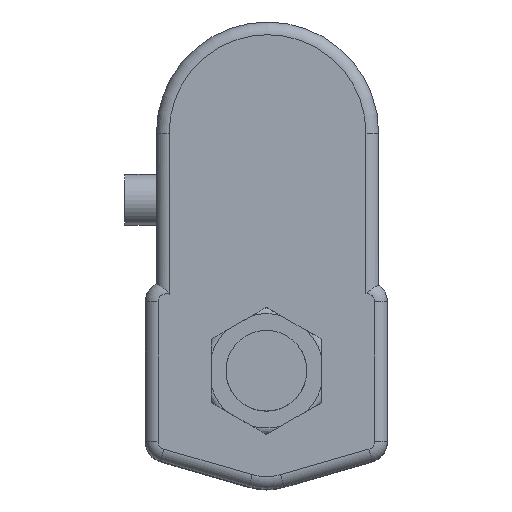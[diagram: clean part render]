
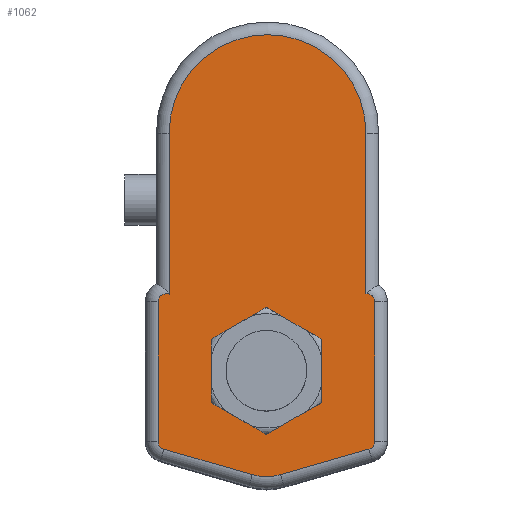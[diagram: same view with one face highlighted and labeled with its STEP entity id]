
A CAD part, top view. The second image highlights one B-rep face of the part: STEP entity #1062.
In plain terms, the highlighted planar face has unit normal (0, 0, 1).
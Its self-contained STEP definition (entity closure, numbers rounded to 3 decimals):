
#207 = CARTESIAN_POINT ( 'NONE',  ( -30.624, 74.902, 127.9 ) ) ;
#214 = CARTESIAN_POINT ( 'NONE',  ( 34.1, 21.81, 127.9 ) ) ;
#216 = CARTESIAN_POINT ( 'NONE',  ( 31.376, 24.299, 127.9 ) ) ;
#219 = CARTESIAN_POINT ( 'NONE',  ( -30.624, 24.111, 127.9 ) ) ;
#221 = CARTESIAN_POINT ( 'NONE',  ( -17.321, -10., 127.9 ) ) ;
#222 = CARTESIAN_POINT ( 'NONE',  ( -4.438, -32.655, 127.9 ) ) ;
#223 = CARTESIAN_POINT ( 'NONE',  ( 0., -20., 127.9 ) ) ;
#244 = CARTESIAN_POINT ( 'NONE',  ( 34.1, -22.211, 127.9 ) ) ;
#260 = CARTESIAN_POINT ( 'NONE',  ( -34.1, -22.211, 127.9 ) ) ;
#263 = CARTESIAN_POINT ( 'NONE',  ( -17.321, 10., 127.9 ) ) ;
#269 = CARTESIAN_POINT ( 'NONE',  ( -32.293, -24.613, 127.9 ) ) ;
#272 = CARTESIAN_POINT ( 'NONE',  ( 4.438, -32.655, 127.9 ) ) ;
#273 = CARTESIAN_POINT ( 'NONE',  ( 31.376, 74.902, 127.9 ) ) ;
#276 = CARTESIAN_POINT ( 'NONE',  ( 17.321, -10., 127.9 ) ) ;
#279 = CARTESIAN_POINT ( 'NONE',  ( 32.293, -24.613, 127.9 ) ) ;
#281 = CARTESIAN_POINT ( 'NONE',  ( 0., 20., 127.9 ) ) ;
#283 = CARTESIAN_POINT ( 'NONE',  ( 17.321, 10., 127.9 ) ) ;
#310 = CARTESIAN_POINT ( 'NONE',  ( -34.1, 21.81, 127.9 ) ) ;
#626 = ORIENTED_EDGE ( 'NONE', *, *, #2248, .T. ) ;
#627 = ORIENTED_EDGE ( 'NONE', *, *, #2247, .T. ) ;
#628 = ORIENTED_EDGE ( 'NONE', *, *, #2197, .T. ) ;
#629 = ORIENTED_EDGE ( 'NONE', *, *, #2249, .T. ) ;
#630 = ORIENTED_EDGE ( 'NONE', *, *, #2178, .T. ) ;
#631 = ORIENTED_EDGE ( 'NONE', *, *, #2226, .T. ) ;
#632 = ORIENTED_EDGE ( 'NONE', *, *, #2250, .T. ) ;
#633 = ORIENTED_EDGE ( 'NONE', *, *, #2251, .T. ) ;
#634 = ORIENTED_EDGE ( 'NONE', *, *, #2252, .T. ) ;
#635 = ORIENTED_EDGE ( 'NONE', *, *, #2253, .T. ) ;
#636 = ORIENTED_EDGE ( 'NONE', *, *, #2254, .T. ) ;
#637 = ORIENTED_EDGE ( 'NONE', *, *, #2255, .T. ) ;
#638 = ORIENTED_EDGE ( 'NONE', *, *, #2257, .F. ) ;
#639 = ORIENTED_EDGE ( 'NONE', *, *, #2256, .F. ) ;
#640 = ORIENTED_EDGE ( 'NONE', *, *, #2259, .F. ) ;
#641 = ORIENTED_EDGE ( 'NONE', *, *, #2258, .F. ) ;
#642 = ORIENTED_EDGE ( 'NONE', *, *, #2260, .F. ) ;
#643 = ORIENTED_EDGE ( 'NONE', *, *, #2261, .F. ) ;
#924 = FACE_BOUND ( 'NONE', #3278, .T. ) ;
#929 = FACE_OUTER_BOUND ( 'NONE', #3281, .T. ) ;
#1062 = ADVANCED_FACE ( 'NONE', ( #929, #924 ), #2050, .T. ) ;
#1440 = AXIS2_PLACEMENT_3D ( 'NONE', #2049, #2031, #2044 ) ;
#1513 = AXIS2_PLACEMENT_3D ( 'NONE', #2670, #2676, #2677 ) ;
#1523 = AXIS2_PLACEMENT_3D ( 'NONE', #2729, #2733, #2734 ) ;
#1546 = AXIS2_PLACEMENT_3D ( 'NONE', #3020, #1669, #1670 ) ;
#1547 = AXIS2_PLACEMENT_3D ( 'NONE', #3025, #1674, #1675 ) ;
#1548 = AXIS2_PLACEMENT_3D ( 'NONE', #1668, #1679, #1680 ) ;
#1549 = AXIS2_PLACEMENT_3D ( 'NONE', #1673, #1683, #1684 ) ;
#1666 = CARTESIAN_POINT ( 'NONE',  ( -34.1, 21.81, 127.9 ) ) ;
#1667 = DIRECTION ( 'NONE',  ( 0., -1., 0. ) ) ;
#1668 = CARTESIAN_POINT ( 'NONE',  ( 31.6, 21.81, 127.9 ) ) ;
#1669 = DIRECTION ( 'NONE',  ( 0., 0., 1. ) ) ;
#1670 = DIRECTION ( 'NONE',  ( 1., 0., 0. ) ) ;
#1671 = CARTESIAN_POINT ( 'NONE',  ( 14.312, -38.069, 127.9 ) ) ;
#1672 = DIRECTION ( 'NONE',  ( 0.961, -0.277, 0. ) ) ;
#1673 = CARTESIAN_POINT ( 'NONE',  ( 0.376, 74.902, 127.9 ) ) ;
#1674 = DIRECTION ( 'NONE',  ( 0., 0., 1. ) ) ;
#1675 = DIRECTION ( 'NONE',  ( 1., 0., 0. ) ) ;
#1676 = CARTESIAN_POINT ( 'NONE',  ( 34.1, 21.81, 127.9 ) ) ;
#1677 = DIRECTION ( 'NONE',  ( 0., 1., 0. ) ) ;
#1678 = CARTESIAN_POINT ( 'NONE',  ( 17.321, -10., 127.9 ) ) ;
#1679 = DIRECTION ( 'NONE',  ( 0., 0., 1. ) ) ;
#1680 = DIRECTION ( 'NONE',  ( 1., 0., 0. ) ) ;
#1681 = CARTESIAN_POINT ( 'NONE',  ( 31.376, 21.81, 127.9 ) ) ;
#1682 = DIRECTION ( 'NONE',  ( 0., 1., 0. ) ) ;
#1683 = DIRECTION ( 'NONE',  ( 0., 0., 1. ) ) ;
#1684 = DIRECTION ( 'NONE',  ( 1., 0., 0. ) ) ;
#1685 = CARTESIAN_POINT ( 'NONE',  ( -30.624, 21.81, 127.9 ) ) ;
#1686 = DIRECTION ( 'NONE',  ( 0., -1., 0. ) ) ;
#1687 = CARTESIAN_POINT ( 'NONE',  ( 0., -20., 127.9 ) ) ;
#1688 = DIRECTION ( 'NONE',  ( 0.866, 0.5, 0. ) ) ;
#1689 = CARTESIAN_POINT ( 'NONE',  ( -17.321, 10., 127.9 ) ) ;
#1690 = DIRECTION ( 'NONE',  ( 0., 1., 0. ) ) ;
#1691 = CARTESIAN_POINT ( 'NONE',  ( -17.321, -10., 127.9 ) ) ;
#1692 = DIRECTION ( 'NONE',  ( 0., -1., 0. ) ) ;
#1693 = CARTESIAN_POINT ( 'NONE',  ( 0., 20., 127.9 ) ) ;
#1694 = DIRECTION ( 'NONE',  ( 0.866, -0.5, 0. ) ) ;
#1695 = CARTESIAN_POINT ( 'NONE',  ( 17.321, 10., 127.9 ) ) ;
#1696 = DIRECTION ( 'NONE',  ( -0.866, -0.5, 0. ) ) ;
#1699 = DIRECTION ( 'NONE',  ( -0.866, 0.5, 0. ) ) ;
#2031 = DIRECTION ( 'NONE',  ( 0., 0., 1. ) ) ;
#2044 = DIRECTION ( 'NONE',  ( 1., 0., 0. ) ) ;
#2049 = CARTESIAN_POINT ( 'NONE',  ( 31.6, 21.81, 127.9 ) ) ;
#2050 = PLANE ( 'NONE',  #1440 ) ;
#2178 = EDGE_CURVE ( 'NONE', #3927, #3980, #3392, .T. ) ;
#2197 = EDGE_CURVE ( 'NONE', #3968, #3977, #3415, .T. ) ;
#2226 = EDGE_CURVE ( 'NONE', #3980, #3987, #3453, .T. ) ;
#2247 = EDGE_CURVE ( 'NONE', #4018, #3968, #3480, .T. ) ;
#2248 = EDGE_CURVE ( 'NONE', #3923, #4018, #3488, .T. ) ;
#2249 = EDGE_CURVE ( 'NONE', #3977, #3927, #3476, .T. ) ;
#2250 = EDGE_CURVE ( 'NONE', #3987, #3952, #3491, .T. ) ;
#2251 = EDGE_CURVE ( 'NONE', #3952, #3921, #3483, .T. ) ;
#2252 = EDGE_CURVE ( 'NONE', #3921, #3919, #3494, .T. ) ;
#2253 = EDGE_CURVE ( 'NONE', #3919, #3981, #3486, .T. ) ;
#2254 = EDGE_CURVE ( 'NONE', #3981, #3928, #3497, .T. ) ;
#2255 = EDGE_CURVE ( 'NONE', #3928, #3923, #3489, .T. ) ;
#2256 = EDGE_CURVE ( 'NONE', #3929, #3984, #3498, .T. ) ;
#2257 = EDGE_CURVE ( 'NONE', #3984, #3991, #3496, .T. ) ;
#2258 = EDGE_CURVE ( 'NONE', #3971, #3925, #3492, .T. ) ;
#2259 = EDGE_CURVE ( 'NONE', #3925, #3929, #3495, .T. ) ;
#2260 = EDGE_CURVE ( 'NONE', #3989, #3971, #3501, .T. ) ;
#2261 = EDGE_CURVE ( 'NONE', #3991, #3989, #3503, .T. ) ;
#2670 = CARTESIAN_POINT ( 'NONE',  ( 0., -17.283, 127.9 ) ) ;
#2676 = DIRECTION ( 'NONE',  ( 0., 0., 1. ) ) ;
#2677 = DIRECTION ( 'NONE',  ( 1., 0., 0. ) ) ;
#2729 = CARTESIAN_POINT ( 'NONE',  ( -31.6, -22.211, 127.9 ) ) ;
#2733 = DIRECTION ( 'NONE',  ( 0., 0., 1. ) ) ;
#2734 = DIRECTION ( 'NONE',  ( 1., 0., 0. ) ) ;
#2887 = CARTESIAN_POINT ( 'NONE',  ( 44.025, -21.226, 127.9 ) ) ;
#2888 = DIRECTION ( 'NONE',  ( 0.961, 0.277, 0. ) ) ;
#3020 = CARTESIAN_POINT ( 'NONE',  ( -31.6, 21.81, 127.9 ) ) ;
#3025 = CARTESIAN_POINT ( 'NONE',  ( 31.6, -22.211, 127.9 ) ) ;
#3278 = EDGE_LOOP ( 'NONE', ( #638, #639, #640, #641, #642, #643 ) ) ;
#3281 = EDGE_LOOP ( 'NONE', ( #626, #627, #628, #629, #630, #631, #632, #633, #634, #635, #636, #637 ) ) ;
#3392 = CIRCLE ( 'NONE', #1513, 16. ) ;
#3415 = CIRCLE ( 'NONE', #1523, 2.5 ) ;
#3453 = LINE ( 'NONE', #2887, #3454 ) ;
#3454 = VECTOR ( 'NONE', #2888, 1000. ) ;
#3473 = VECTOR ( 'NONE', #1667, 1000. ) ;
#3476 = LINE ( 'NONE', #1671, #3484 ) ;
#3480 = LINE ( 'NONE', #1666, #3473 ) ;
#3483 = LINE ( 'NONE', #1676, #3487 ) ;
#3484 = VECTOR ( 'NONE', #1672, 1000. ) ;
#3486 = LINE ( 'NONE', #1681, #3490 ) ;
#3487 = VECTOR ( 'NONE', #1677, 1000. ) ;
#3488 = CIRCLE ( 'NONE', #1546, 2.5 ) ;
#3489 = LINE ( 'NONE', #1685, #3493 ) ;
#3490 = VECTOR ( 'NONE', #1682, 1000. ) ;
#3491 = CIRCLE ( 'NONE', #1547, 2.5 ) ;
#3492 = LINE ( 'NONE', #1689, #3502 ) ;
#3493 = VECTOR ( 'NONE', #1686, 1000. ) ;
#3494 = CIRCLE ( 'NONE', #1548, 2.5 ) ;
#3495 = LINE ( 'NONE', #1691, #3504 ) ;
#3496 = LINE ( 'NONE', #1678, #3500 ) ;
#3497 = CIRCLE ( 'NONE', #1549, 31. ) ;
#3498 = LINE ( 'NONE', #1687, #3499 ) ;
#3499 = VECTOR ( 'NONE', #1688, 1000. ) ;
#3500 = VECTOR ( 'NONE', #1690, 1000. ) ;
#3501 = LINE ( 'NONE', #1693, #3506 ) ;
#3502 = VECTOR ( 'NONE', #1692, 1000. ) ;
#3503 = LINE ( 'NONE', #1695, #3508 ) ;
#3504 = VECTOR ( 'NONE', #1694, 1000. ) ;
#3506 = VECTOR ( 'NONE', #1696, 1000. ) ;
#3508 = VECTOR ( 'NONE', #1699, 1000. ) ;
#3919 = VERTEX_POINT ( 'NONE', #216 ) ;
#3921 = VERTEX_POINT ( 'NONE', #214 ) ;
#3923 = VERTEX_POINT ( 'NONE', #219 ) ;
#3925 = VERTEX_POINT ( 'NONE', #221 ) ;
#3927 = VERTEX_POINT ( 'NONE', #222 ) ;
#3928 = VERTEX_POINT ( 'NONE', #207 ) ;
#3929 = VERTEX_POINT ( 'NONE', #223 ) ;
#3952 = VERTEX_POINT ( 'NONE', #244 ) ;
#3968 = VERTEX_POINT ( 'NONE', #260 ) ;
#3971 = VERTEX_POINT ( 'NONE', #263 ) ;
#3977 = VERTEX_POINT ( 'NONE', #269 ) ;
#3980 = VERTEX_POINT ( 'NONE', #272 ) ;
#3981 = VERTEX_POINT ( 'NONE', #273 ) ;
#3984 = VERTEX_POINT ( 'NONE', #276 ) ;
#3987 = VERTEX_POINT ( 'NONE', #279 ) ;
#3989 = VERTEX_POINT ( 'NONE', #281 ) ;
#3991 = VERTEX_POINT ( 'NONE', #283 ) ;
#4018 = VERTEX_POINT ( 'NONE', #310 ) ;
